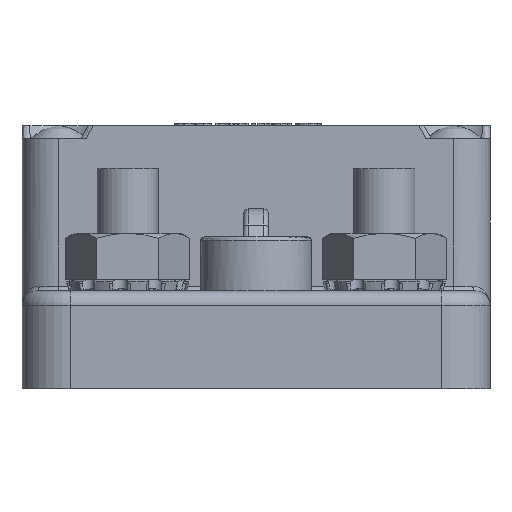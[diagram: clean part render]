
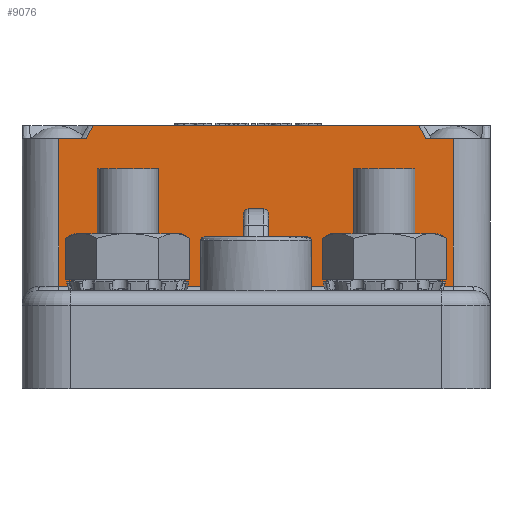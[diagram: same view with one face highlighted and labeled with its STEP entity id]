
A CAD part, left-side view. The second image highlights one B-rep face of the part: STEP entity #9076.
In plain terms, the highlighted planar face has unit normal (-1, 0, 0).
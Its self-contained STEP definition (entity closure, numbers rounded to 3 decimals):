
#512=B_SPLINE_CURVE_WITH_KNOTS('',3,(#15740,#15741,#15742,#15743),
 .UNSPECIFIED.,.F.,.F.,(4,4),(-0.173,-0.02),
 .UNSPECIFIED.);
#525=B_SPLINE_CURVE_WITH_KNOTS('',3,(#16286,#16287,#16288,#16289),
 .UNSPECIFIED.,.F.,.F.,(4,4),(-0.134,0.019),
 .UNSPECIFIED.);
#766=LINE('',#12473,#1347);
#787=LINE('',#12564,#1368);
#789=LINE('',#12575,#1370);
#790=LINE('',#12579,#1371);
#1032=LINE('',#14925,#1613);
#1081=LINE('',#15543,#1662);
#1092=LINE('',#16681,#1673);
#1093=LINE('',#16682,#1674);
#1094=LINE('',#16684,#1675);
#1095=LINE('',#16685,#1676);
#1347=VECTOR('',#10335,10.);
#1368=VECTOR('',#10432,10.);
#1370=VECTOR('',#10450,10.);
#1371=VECTOR('',#10455,10.);
#1613=VECTOR('',#10835,10.);
#1662=VECTOR('',#11050,10.);
#1673=VECTOR('',#11105,10.);
#1674=VECTOR('',#11106,10.);
#1675=VECTOR('',#11107,10.);
#1676=VECTOR('',#11108,10.);
#2206=PLANE('',#9757);
#2515=FACE_OUTER_BOUND('',#3076,.T.);
#3076=EDGE_LOOP('',(#7241,#7242,#7243,#7244,#7245,#7246,#7247,#7248,#7249,
#7250,#7251,#7252,#7253,#7254));
#3433=CIRCLE('',#9572,0.5);
#3436=CIRCLE('',#9579,0.5);
#3760=VERTEX_POINT('',#12470);
#3761=VERTEX_POINT('',#12472);
#3790=VERTEX_POINT('',#12554);
#3791=VERTEX_POINT('',#12555);
#3793=VERTEX_POINT('',#12562);
#3794=VERTEX_POINT('',#12574);
#3795=VERTEX_POINT('',#12578);
#4045=VERTEX_POINT('',#14409);
#4059=VERTEX_POINT('',#14866);
#4136=VERTEX_POINT('',#15541);
#4145=VERTEX_POINT('',#15739);
#4153=VERTEX_POINT('',#16221);
#4163=VERTEX_POINT('',#16680);
#4164=VERTEX_POINT('',#16683);
#4673=EDGE_CURVE('',#3761,#3760,#766,.T.);
#4713=EDGE_CURVE('',#3790,#3791,#3433,.F.);
#4718=EDGE_CURVE('',#3790,#3793,#787,.T.);
#4722=EDGE_CURVE('',#3761,#3793,#3436,.F.);
#4723=EDGE_CURVE('',#3794,#3791,#789,.T.);
#4725=EDGE_CURVE('',#3794,#3795,#790,.T.);
#5114=EDGE_CURVE('',#4045,#4059,#1032,.T.);
#5230=EDGE_CURVE('',#4136,#3760,#1081,.T.);
#5247=EDGE_CURVE('',#4045,#4145,#512,.T.);
#5262=EDGE_CURVE('',#4153,#4059,#525,.T.);
#5282=EDGE_CURVE('',#4163,#4136,#1092,.T.);
#5283=EDGE_CURVE('',#4163,#4145,#1093,.T.);
#5284=EDGE_CURVE('',#4153,#4164,#1094,.T.);
#5285=EDGE_CURVE('',#3795,#4164,#1095,.T.);
#7241=ORIENTED_EDGE('',*,*,#4673,.T.);
#7242=ORIENTED_EDGE('',*,*,#5230,.F.);
#7243=ORIENTED_EDGE('',*,*,#5282,.F.);
#7244=ORIENTED_EDGE('',*,*,#5283,.T.);
#7245=ORIENTED_EDGE('',*,*,#5247,.F.);
#7246=ORIENTED_EDGE('',*,*,#5114,.T.);
#7247=ORIENTED_EDGE('',*,*,#5262,.F.);
#7248=ORIENTED_EDGE('',*,*,#5284,.T.);
#7249=ORIENTED_EDGE('',*,*,#5285,.F.);
#7250=ORIENTED_EDGE('',*,*,#4725,.F.);
#7251=ORIENTED_EDGE('',*,*,#4723,.T.);
#7252=ORIENTED_EDGE('',*,*,#4713,.F.);
#7253=ORIENTED_EDGE('',*,*,#4718,.T.);
#7254=ORIENTED_EDGE('',*,*,#4722,.F.);
#9076=ADVANCED_FACE('',(#2515),#2206,.F.);
#9572=AXIS2_PLACEMENT_3D('',#12556,#10424,#10425);
#9579=AXIS2_PLACEMENT_3D('',#12571,#10444,#10445);
#9757=AXIS2_PLACEMENT_3D('',#16679,#11103,#11104);
#10335=DIRECTION('',(0.,0.,-1.));
#10424=DIRECTION('center_axis',(1.,0.,0.));
#10425=DIRECTION('ref_axis',(0.,0.707,0.707));
#10432=DIRECTION('',(0.,-1.,0.));
#10444=DIRECTION('center_axis',(1.,0.,0.));
#10445=DIRECTION('ref_axis',(0.,-0.707,0.707));
#10450=DIRECTION('',(0.,0.,1.));
#10455=DIRECTION('',(0.,1.,0.));
#10835=DIRECTION('',(0.,1.,0.));
#11050=DIRECTION('',(0.,1.,0.));
#11103=DIRECTION('center_axis',(1.,0.,0.));
#11104=DIRECTION('ref_axis',(0.,0.,-1.));
#11105=DIRECTION('',(0.,0.,-1.));
#11106=DIRECTION('',(0.,1.,0.));
#11107=DIRECTION('',(0.,1.,0.));
#11108=DIRECTION('',(0.,0.,1.));
#12470=CARTESIAN_POINT('',(31.85,22.95,6.65));
#12472=CARTESIAN_POINT('',(31.85,22.95,14.15));
#12473=CARTESIAN_POINT('',(31.85,22.95,7.837));
#12554=CARTESIAN_POINT('',(31.85,25.05,14.65));
#12555=CARTESIAN_POINT('',(31.85,25.55,14.15));
#12556=CARTESIAN_POINT('Origin',(31.85,25.05,14.15));
#12562=CARTESIAN_POINT('',(31.85,23.45,14.65));
#12564=CARTESIAN_POINT('',(31.85,12.125,14.65));
#12571=CARTESIAN_POINT('Origin',(31.85,23.45,14.15));
#12574=CARTESIAN_POINT('',(31.85,25.55,6.65));
#12575=CARTESIAN_POINT('',(31.85,25.55,7.837));
#12578=CARTESIAN_POINT('',(31.85,44.674,6.65));
#12579=CARTESIAN_POINT('',(31.85,12.125,6.65));
#14409=CARTESIAN_POINT('',(31.85,7.377,23.299));
#14866=CARTESIAN_POINT('',(31.85,41.123,23.299));
#14925=CARTESIAN_POINT('',(31.85,0.,23.299));
#15541=CARTESIAN_POINT('',(31.85,3.826,6.65));
#15543=CARTESIAN_POINT('',(31.85,12.125,6.65));
#15739=CARTESIAN_POINT('',(31.85,6.659,21.949));
#15740=CARTESIAN_POINT('Ctrl Pts',(31.85,7.377,23.299));
#15741=CARTESIAN_POINT('Ctrl Pts',(31.85,7.148,22.843));
#15742=CARTESIAN_POINT('Ctrl Pts',(31.85,6.91,22.392));
#15743=CARTESIAN_POINT('Ctrl Pts',(31.85,6.659,21.948));
#16221=CARTESIAN_POINT('',(31.85,41.841,21.949));
#16286=CARTESIAN_POINT('Ctrl Pts',(31.85,41.841,21.948));
#16287=CARTESIAN_POINT('Ctrl Pts',(31.85,41.59,22.392));
#16288=CARTESIAN_POINT('Ctrl Pts',(31.85,41.352,22.843));
#16289=CARTESIAN_POINT('Ctrl Pts',(31.85,41.123,23.299));
#16679=CARTESIAN_POINT('Origin',(31.85,0.,6.15));
#16680=CARTESIAN_POINT('',(31.85,3.826,21.949));
#16681=CARTESIAN_POINT('',(31.85,3.826,3.075));
#16682=CARTESIAN_POINT('',(31.85,1.875,21.949));
#16683=CARTESIAN_POINT('',(31.85,44.674,21.949));
#16684=CARTESIAN_POINT('',(31.85,22.375,21.949));
#16685=CARTESIAN_POINT('',(31.85,44.674,3.075));
